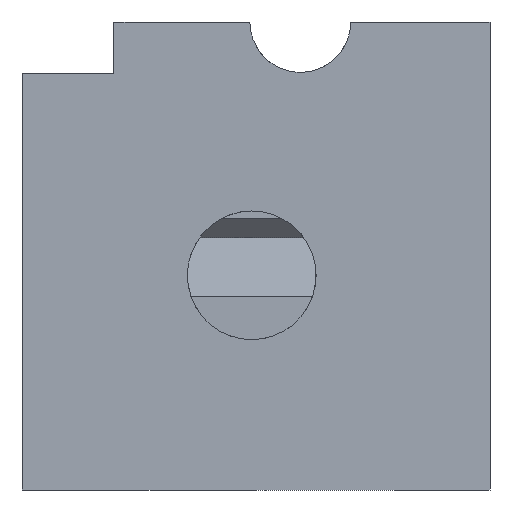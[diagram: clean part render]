
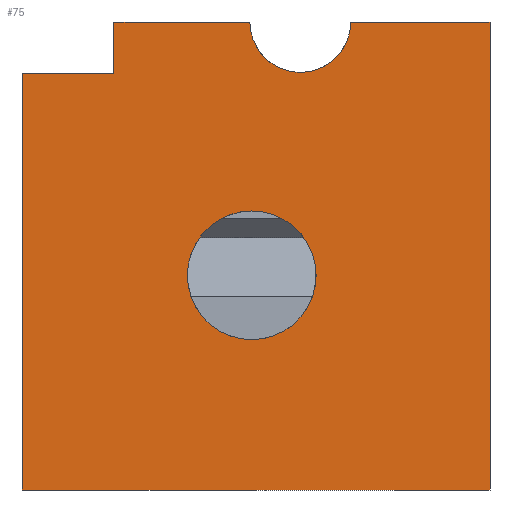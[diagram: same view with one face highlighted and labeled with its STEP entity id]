
A CAD part, left-side view. The second image highlights one B-rep face of the part: STEP entity #75.
In plain terms, the highlighted planar face has unit normal (-1, 0, 0).
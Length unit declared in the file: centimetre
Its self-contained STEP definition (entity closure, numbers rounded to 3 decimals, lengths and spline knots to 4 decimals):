
#3 = CARTESIAN_POINT ( 'NONE',  ( 0., 509.0902, 458.7 ) ) ;
#6 = VECTOR ( 'NONE', #1131, 100. ) ;
#8 = VECTOR ( 'NONE', #437, 100. ) ;
#31 = AXIS2_PLACEMENT_3D ( 'NONE', #111, #1071, #117 ) ;
#52 = DIRECTION ( 'NONE',  ( -1., 0., 0. ) ) ;
#57 = ORIENTED_EDGE ( 'NONE', *, *, #1295, .F. ) ;
#60 = AXIS2_PLACEMENT_3D ( 'NONE', #3, #1073, #830 ) ;
#72 = DIRECTION ( 'NONE',  ( -1., 0., 0. ) ) ;
#75 = ADVANCED_FACE ( 'NONE', ( #826, #854 ), #1304, .F. ) ;
#80 = VERTEX_POINT ( 'NONE', #611 ) ;
#84 = LINE ( 'NONE', #797, #403 ) ;
#97 = DIRECTION ( 'NONE',  ( 0., 0., -1. ) ) ;
#105 = CIRCLE ( 'NONE', #435, 137.5667 ) ;
#111 = CARTESIAN_POINT ( 'NONE',  ( 0., 1000., 1000. ) ) ;
#117 = DIRECTION ( 'NONE',  ( 0., 0., -1. ) ) ;
#120 = CARTESIAN_POINT ( 'NONE',  ( 0., 0., 1000. ) ) ;
#141 = DIRECTION ( 'NONE',  ( 0., 0., -1. ) ) ;
#143 = EDGE_LOOP ( 'NONE', ( #57, #160, #635, #446, #647, #1050, #1398, #466 ) ) ;
#160 = ORIENTED_EDGE ( 'NONE', *, *, #1197, .F. ) ;
#163 = CARTESIAN_POINT ( 'NONE',  ( 0., 803.5847, 890.29 ) ) ;
#178 = VERTEX_POINT ( 'NONE', #256 ) ;
#184 = VECTOR ( 'NONE', #141, 100. ) ;
#256 = CARTESIAN_POINT ( 'NONE',  ( 0., 1000., 890.29 ) ) ;
#284 = ORIENTED_EDGE ( 'NONE', *, *, #319, .F. ) ;
#319 = EDGE_CURVE ( 'NONE', #768, #513, #676, .T. ) ;
#333 = DIRECTION ( 'NONE',  ( 0., 0., 1. ) ) ;
#345 = CIRCLE ( 'NONE', #745, 107.6975 ) ;
#376 = CARTESIAN_POINT ( 'NONE',  ( 0., 803.5847, 1000. ) ) ;
#403 = VECTOR ( 'NONE', #97, 100. ) ;
#407 = EDGE_CURVE ( 'NONE', #80, #947, #614, .T. ) ;
#424 = DIRECTION ( 'NONE',  ( 0., -1., 0. ) ) ;
#426 = CARTESIAN_POINT ( 'NONE',  ( 0., 1000., 0. ) ) ;
#434 = ORIENTED_EDGE ( 'NONE', *, *, #544, .F. ) ;
#435 = AXIS2_PLACEMENT_3D ( 'NONE', #656, #72, #333 ) ;
#437 = DIRECTION ( 'NONE',  ( 0., -1., 0. ) ) ;
#444 = CARTESIAN_POINT ( 'NONE',  ( 0., 803.5847, 890.29 ) ) ;
#446 = ORIENTED_EDGE ( 'NONE', *, *, #1132, .F. ) ;
#466 = ORIENTED_EDGE ( 'NONE', *, *, #407, .F. ) ;
#489 = CARTESIAN_POINT ( 'NONE',  ( 0., 1000., 1000. ) ) ;
#513 = VERTEX_POINT ( 'NONE', #990 ) ;
#544 = EDGE_CURVE ( 'NONE', #513, #768, #105, .T. ) ;
#603 = VECTOR ( 'NONE', #950, 100. ) ;
#611 = CARTESIAN_POINT ( 'NONE',  ( 0., 0., 1000. ) ) ;
#614 = LINE ( 'NONE', #120, #184 ) ;
#635 = ORIENTED_EDGE ( 'NONE', *, *, #752, .F. ) ;
#647 = ORIENTED_EDGE ( 'NONE', *, *, #653, .F. ) ;
#653 = EDGE_CURVE ( 'NONE', #178, #879, #816, .T. ) ;
#656 = CARTESIAN_POINT ( 'NONE',  ( 0., 509.0902, 458.7 ) ) ;
#675 = EDGE_LOOP ( 'NONE', ( #434, #284 ) ) ;
#676 = CIRCLE ( 'NONE', #60, 137.5667 ) ;
#682 = EDGE_CURVE ( 'NONE', #178, #1255, #84, .T. ) ;
#740 = CARTESIAN_POINT ( 'NONE',  ( 0., 803.5847, 890.29 ) ) ;
#745 = AXIS2_PLACEMENT_3D ( 'NONE', #788, #52, #1244 ) ;
#752 = EDGE_CURVE ( 'NONE', #1075, #920, #1409, .T. ) ;
#768 = VERTEX_POINT ( 'NONE', #1435 ) ;
#788 = CARTESIAN_POINT ( 'NONE',  ( 0., 405.33, 1000. ) ) ;
#797 = CARTESIAN_POINT ( 'NONE',  ( 0., 1000., 1000. ) ) ;
#816 = LINE ( 'NONE', #444, #6 ) ;
#826 = FACE_BOUND ( 'NONE', #675, .T. ) ;
#830 = DIRECTION ( 'NONE',  ( 0., 0., 1. ) ) ;
#845 = DIRECTION ( 'NONE',  ( 0., 0., 1. ) ) ;
#854 = FACE_OUTER_BOUND ( 'NONE', #143, .T. ) ;
#879 = VERTEX_POINT ( 'NONE', #163 ) ;
#920 = VERTEX_POINT ( 'NONE', #1218 ) ;
#947 = VERTEX_POINT ( 'NONE', #1111 ) ;
#950 = DIRECTION ( 'NONE',  ( 0., -1., 0. ) ) ;
#990 = CARTESIAN_POINT ( 'NONE',  ( 0., 509.0902, 596.2667 ) ) ;
#997 = LINE ( 'NONE', #1136, #1482 ) ;
#1050 = ORIENTED_EDGE ( 'NONE', *, *, #682, .T. ) ;
#1062 = LINE ( 'NONE', #740, #1359 ) ;
#1071 = DIRECTION ( 'NONE',  ( 1., 0., 0. ) ) ;
#1073 = DIRECTION ( 'NONE',  ( -1., 0., 0. ) ) ;
#1075 = VERTEX_POINT ( 'NONE', #376 ) ;
#1111 = CARTESIAN_POINT ( 'NONE',  ( 0., 0., 0. ) ) ;
#1131 = DIRECTION ( 'NONE',  ( 0., -1., 0. ) ) ;
#1132 = EDGE_CURVE ( 'NONE', #879, #1075, #1062, .T. ) ;
#1136 = CARTESIAN_POINT ( 'NONE',  ( 0., 1000., 1000. ) ) ;
#1197 = EDGE_CURVE ( 'NONE', #920, #1483, #345, .T. ) ;
#1218 = CARTESIAN_POINT ( 'NONE',  ( 0., 513.0274, 1000. ) ) ;
#1244 = DIRECTION ( 'NONE',  ( 0., 0., 1. ) ) ;
#1255 = VERTEX_POINT ( 'NONE', #1484 ) ;
#1295 = EDGE_CURVE ( 'NONE', #1483, #80, #997, .T. ) ;
#1304 = PLANE ( 'NONE',  #31 ) ;
#1359 = VECTOR ( 'NONE', #845, 100. ) ;
#1398 = ORIENTED_EDGE ( 'NONE', *, *, #1455, .T. ) ;
#1409 = LINE ( 'NONE', #489, #603 ) ;
#1435 = CARTESIAN_POINT ( 'NONE',  ( 0., 509.0902, 321.1333 ) ) ;
#1455 = EDGE_CURVE ( 'NONE', #1255, #947, #1479, .T. ) ;
#1473 = CARTESIAN_POINT ( 'NONE',  ( 0., 297.6325, 1000. ) ) ;
#1479 = LINE ( 'NONE', #426, #8 ) ;
#1482 = VECTOR ( 'NONE', #424, 100. ) ;
#1483 = VERTEX_POINT ( 'NONE', #1473 ) ;
#1484 = CARTESIAN_POINT ( 'NONE',  ( 0., 1000., 0. ) ) ;
